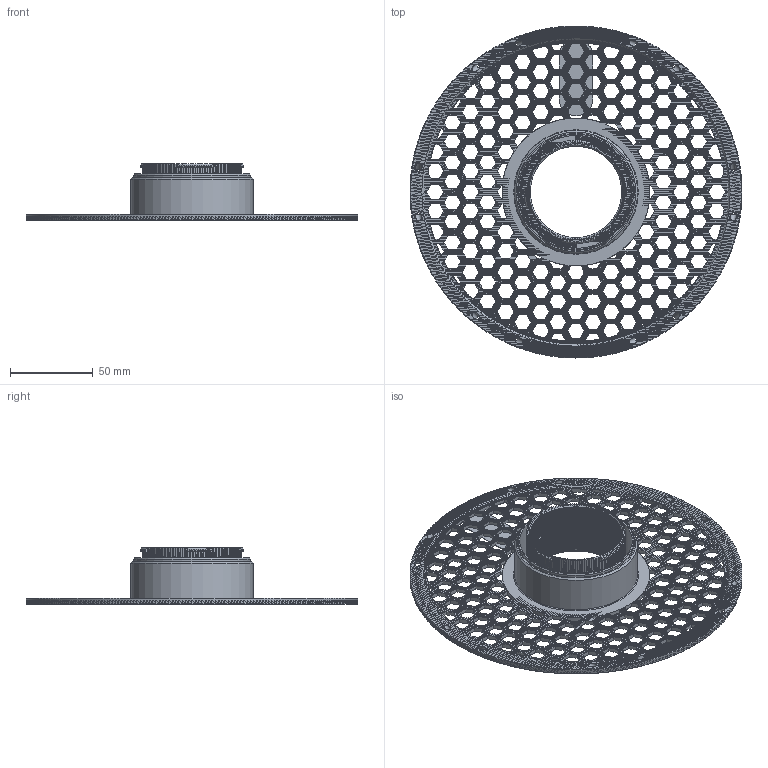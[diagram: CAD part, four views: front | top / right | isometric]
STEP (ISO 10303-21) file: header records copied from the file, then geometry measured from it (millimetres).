
FILE_DESCRIPTION(/* description */ (''),/* implementation_level */ '2;1');
FILE_NAME(/* name */ 'bambulab_spool_narrow_modded_v2_different_core_diameter.step',/* time_stamp */ '2023-09-21T18:13:50+02:00',/* author */ (''),/* organization */ (''),/* preprocessor_version */ 'ST-DEVELOPER v20',/* originating_system */ 'Autodesk Translation Framework v12.14.0.127',/* authorisation */ '');
FILE_SCHEMA (('AUTOMOTIVE_DESIGN { 1 0 10303 214 3 1 1 }'));
Length unit declared in the file: millimetre
Products named in the file (1): bambu_spool_narrow_modded_different_core_diameter
Bounding box: 200 x 200 x 34.1 mm (x, y, z)
Volume: 80394.2 mm3; surface area: 76765.5 mm2
Topology: 1 solids, 1 shells, 16578 faces, 38211 edges, 21263 vertices
Faces by surface type: plane 16493, cylinder 80, cone 5
Full cylindrical faces by diameter (mm): 3.5 x12, 68.094 x1, 74 x1
Entity records: 449385 total; most frequent: ORIENTED_EDGE 77340, CARTESIAN_POINT 77049, DIRECTION 74078, EDGE_CURVE 38670, LINE 36420, VECTOR 36420, VERTEX_POINT 21800, AXIS2_PLACEMENT_3D 18829
